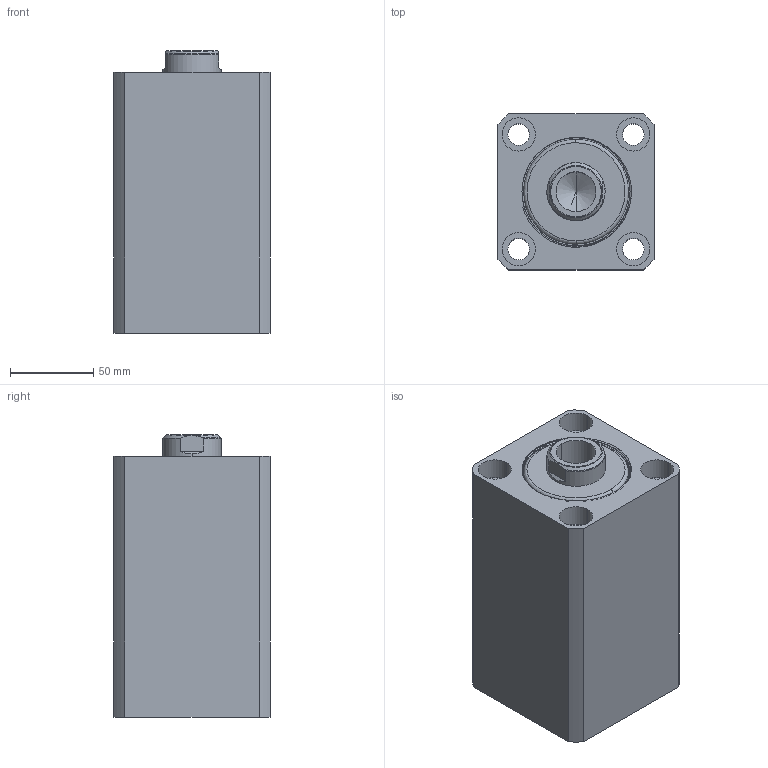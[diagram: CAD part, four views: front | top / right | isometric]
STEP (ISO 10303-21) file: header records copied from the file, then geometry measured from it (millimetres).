
FILE_DESCRIPTION (( 'STEP AP214' ), '1' );
FILE_NAME ('chtb-sd63x90n_asm.STEP', '2018-05-09T01:53:24', ( 'Windows' ), ( 'Microsoft' ), 'SwSTEP 2.0', 'SolidWorks 2015', '' );
FILE_SCHEMA (( 'AUTOMOTIVE_DESIGN' ));
Length unit declared in the file: millimetre
Products named in the file (4): CHTB63X90NHSG; CHTB63X90NBT; CHTB-63QG; chtb-sd63x90n_asm
Assembly tree (3 placements, depth 2):
  chtb-sd63x90n_asm
    CHTB-63QG
    CHTB63X90NBT
    CHTB63X90NHSG
Bounding box: 94 x 94 x 170 mm (x, y, z)
Volume: 1076107.4 mm3; surface area: 177801.9 mm2
Topology: 3 solids, 3 shells, 165 faces, 465 edges, 318 vertices
Faces by surface type: cylinder 101, plane 33, bspline 12, cone 12, torus 7
Entity records: 17638 total; most frequent: CARTESIAN_POINT 13505, ORIENTED_EDGE 918, DIRECTION 719, EDGE_CURVE 459, VERTEX_POINT 318, AXIS2_PLACEMENT_3D 291, EDGE_LOOP 197, FACE_OUTER_BOUND 165
